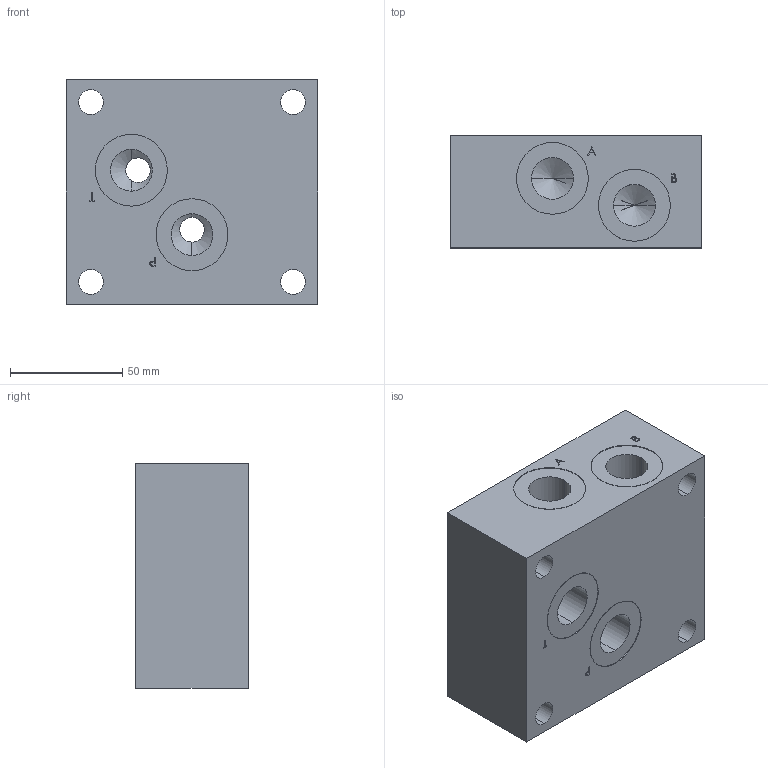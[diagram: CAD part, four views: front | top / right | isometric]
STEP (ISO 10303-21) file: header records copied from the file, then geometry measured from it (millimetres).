
FILE_DESCRIPTION (( 'STEP AP214' ), '1' );
FILE_NAME ('AG10SU.STEP', '2017-03-16T13:40:04', ( '' ), ( '' ), 'SwSTEP 2.0', 'SolidWorks 2016', '' );
FILE_SCHEMA (( 'AUTOMOTIVE_DESIGN' ));
Length unit declared in the file: millimetre
Products named in the file (1): AG10SU
Bounding box: 112 x 50 x 100 mm (x, y, z)
Volume: 496140.2 mm3; surface area: 60163.7 mm2
Topology: 1 solids, 1 shells, 218 faces, 556 edges, 356 vertices
Faces by surface type: plane 95, bspline 55, cylinder 48, cone 20
Entity records: 9967 total; most frequent: CARTESIAN_POINT 4849, ORIENTED_EDGE 1080, DIRECTION 842, EDGE_CURVE 540, VERTEX_POINT 356, VECTOR 330, LINE 330, EDGE_LOOP 262
